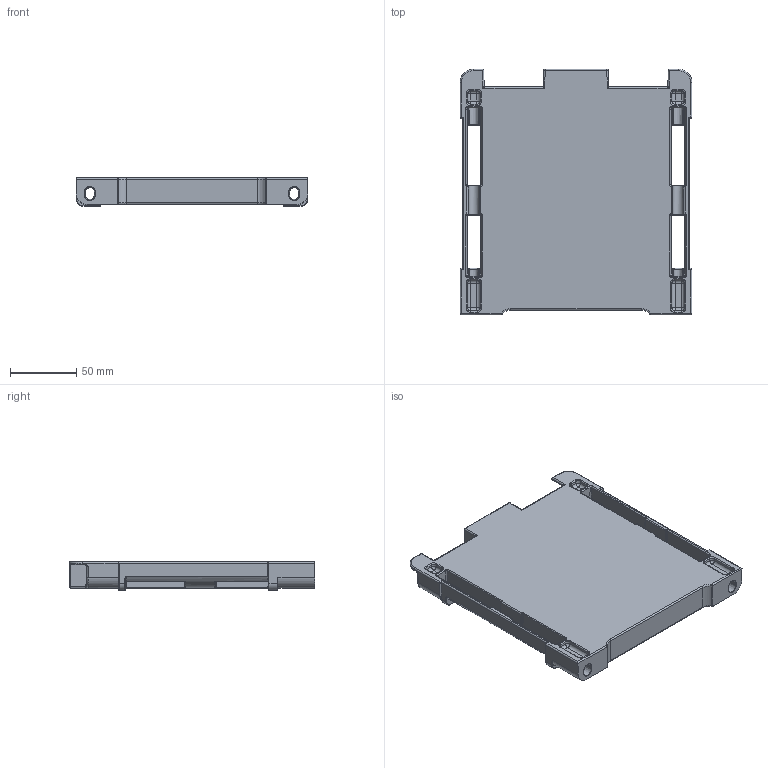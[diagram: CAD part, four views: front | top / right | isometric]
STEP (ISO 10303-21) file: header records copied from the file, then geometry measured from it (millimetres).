
FILE_DESCRIPTION(/* description */ (''),/* implementation_level */ '2;1');
FILE_NAME(/* name */ '端板_1__stp20230128.stp',/* time_stamp */ '2023-01-28T10:25:55+08:00',/* author */ (''),/* organization */ (''),/* preprocessor_version */ 'ST-DEVELOPER v16',/* originating_system */ 'SIEMENS PLM Software NX 10.0',/* authorisation */ '');
FILE_SCHEMA (('CONFIG_CONTROL_DESIGN'));
Products named in the file (1): 端板_1__stp20220112
Bounding box: 174.96 x 185 x 21.5 mm (x, y, z)
Volume: 170818.3 mm3; surface area: 114316.2 mm2
Topology: 1 solids, 3 shells, 2221 faces, 5339 edges, 2947 vertices
Faces by surface type: bspline 979, cylinder 618, plane 295, torus 120, sphere 111, cone 76, extrusion 22
Entity records: 78325 total; most frequent: CARTESIAN_POINT 34648, ORIENTED_EDGE 10328, DIRECTION 7750, EDGE_CURVE 5164, AXIS2_PLACEMENT_3D 3212, VERTEX_POINT 2947, EDGE_LOOP 2239, ADVANCED_FACE 2221
